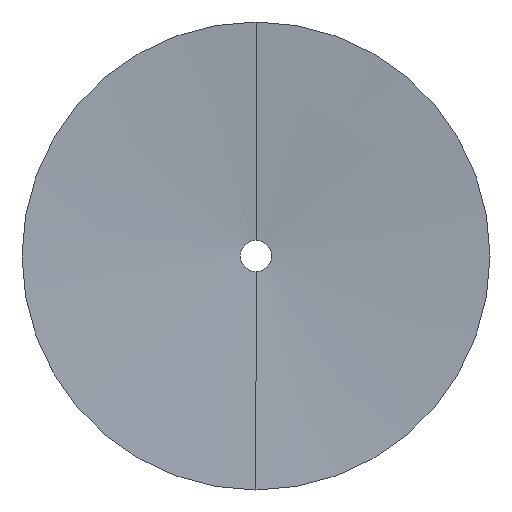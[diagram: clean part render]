
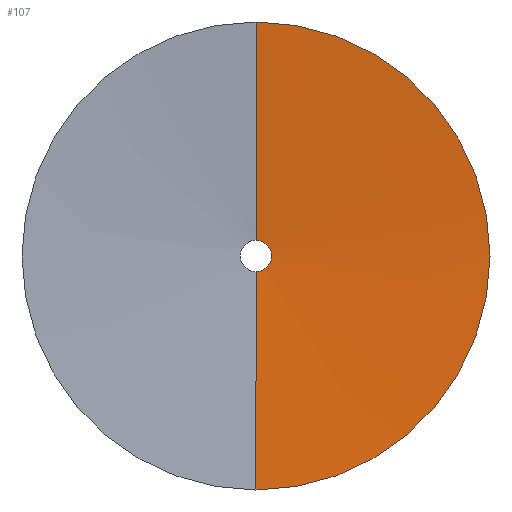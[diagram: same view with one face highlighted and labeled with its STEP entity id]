
A CAD part, left-side view. The second image highlights one B-rep face of the part: STEP entity #107.
In plain terms, the highlighted conical face has half-angle 85.914 degrees and reference radius 1 mm.
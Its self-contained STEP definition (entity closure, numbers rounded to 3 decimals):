
#2 = DIRECTION ( 'NONE',  ( -0.071, 0., -0.997 ) ) ;
#17 = CARTESIAN_POINT ( 'NONE',  ( 1., 0., -1. ) ) ;
#26 = EDGE_CURVE ( 'NONE', #413, #174, #268, .T. ) ;
#35 = CARTESIAN_POINT ( 'NONE',  ( 0., 0., -15. ) ) ;
#47 = ORIENTED_EDGE ( 'NONE', *, *, #85, .T. ) ;
#48 = FACE_OUTER_BOUND ( 'NONE', #557, .T. ) ;
#55 = ORIENTED_EDGE ( 'NONE', *, *, #210, .F. ) ;
#65 = LINE ( 'NONE', #412, #616 ) ;
#85 = EDGE_CURVE ( 'NONE', #537, #384, #182, .T. ) ;
#90 = DIRECTION ( 'NONE',  ( -1., 0., 0. ) ) ;
#107 = ADVANCED_FACE ( 'NONE', ( #48 ), #454, .F. ) ;
#159 = ORIENTED_EDGE ( 'NONE', *, *, #199, .T. ) ;
#174 = VERTEX_POINT ( 'NONE', #618 ) ;
#177 = CARTESIAN_POINT ( 'NONE',  ( 1., 0., 0. ) ) ;
#182 = CIRCLE ( 'NONE', #227, 1. ) ;
#199 = EDGE_CURVE ( 'NONE', #384, #413, #65, .T. ) ;
#210 = EDGE_CURVE ( 'NONE', #537, #174, #590, .T. ) ;
#227 = AXIS2_PLACEMENT_3D ( 'NONE', #503, #665, #658 ) ;
#236 = VECTOR ( 'NONE', #603, 1000. ) ;
#268 = CIRCLE ( 'NONE', #610, 15. ) ;
#303 = CARTESIAN_POINT ( 'NONE',  ( 0., 0., 0. ) ) ;
#333 = CARTESIAN_POINT ( 'NONE',  ( 1., 0., 1. ) ) ;
#384 = VERTEX_POINT ( 'NONE', #17 ) ;
#403 = CARTESIAN_POINT ( 'NONE',  ( 1., 0., 1. ) ) ;
#412 = CARTESIAN_POINT ( 'NONE',  ( 1., 0., -1. ) ) ;
#413 = VERTEX_POINT ( 'NONE', #35 ) ;
#454 = CONICAL_SURFACE ( 'NONE', #480, 1., 1.499 ) ;
#480 = AXIS2_PLACEMENT_3D ( 'NONE', #177, #90, #656 ) ;
#487 = ORIENTED_EDGE ( 'NONE', *, *, #26, .T. ) ;
#498 = DIRECTION ( 'NONE',  ( -1., 0., 0. ) ) ;
#503 = CARTESIAN_POINT ( 'NONE',  ( 1., 0., 0. ) ) ;
#537 = VERTEX_POINT ( 'NONE', #403 ) ;
#557 = EDGE_LOOP ( 'NONE', ( #47, #159, #487, #55 ) ) ;
#590 = LINE ( 'NONE', #333, #236 ) ;
#603 = DIRECTION ( 'NONE',  ( -0.071, 0., 0.997 ) ) ;
#610 = AXIS2_PLACEMENT_3D ( 'NONE', #303, #498, #670 ) ;
#616 = VECTOR ( 'NONE', #2, 1000. ) ;
#618 = CARTESIAN_POINT ( 'NONE',  ( 0., 0., 15. ) ) ;
#656 = DIRECTION ( 'NONE',  ( 0., 0., 1. ) ) ;
#658 = DIRECTION ( 'NONE',  ( 0., -1., 0. ) ) ;
#665 = DIRECTION ( 'NONE',  ( 1., 0., 0. ) ) ;
#670 = DIRECTION ( 'NONE',  ( 0., -1., 0. ) ) ;
